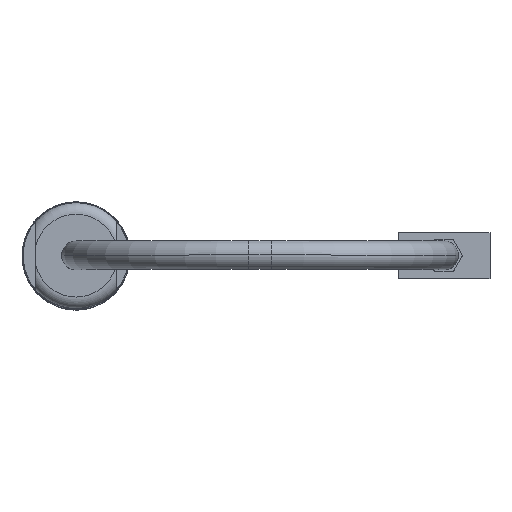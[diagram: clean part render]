
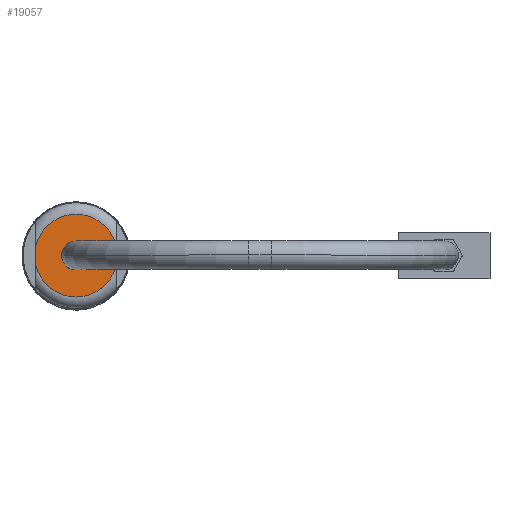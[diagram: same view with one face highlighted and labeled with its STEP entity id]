
A CAD part, top view. The second image highlights one B-rep face of the part: STEP entity #19057.
In plain terms, the highlighted planar face has unit normal (0, 0, 1) as drawn and (1, 0, 0) by its records, which use the part's own axes.
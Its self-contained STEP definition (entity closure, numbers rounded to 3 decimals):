
#17188=DIRECTION('',(0.,0.,-1.));
#17189=VECTOR('',#17188,1.685);
#17190=CARTESIAN_POINT('',(37.26,3.5,0.843));
#17191=LINE('',#17190,#17189);
#17195=DIRECTION('',(0.,0.,-1.));
#17196=VECTOR('',#17195,1.685);
#17197=CARTESIAN_POINT('',(37.26,-3.5,0.843));
#17198=LINE('',#17197,#17196);
#18715=CARTESIAN_POINT('',(37.26,0.,0.));
#18716=DIRECTION('',(1.,0.,0.));
#18717=DIRECTION('',(0.,0.972,0.234));
#18718=AXIS2_PLACEMENT_3D('',#18715,#18716,#18717);
#18743=CARTESIAN_POINT('',(37.26,3.5,0.843));
#18763=CARTESIAN_POINT('',(37.26,-3.5,-0.843));
#18783=CARTESIAN_POINT('',(37.26,0.,0.));
#18784=DIRECTION('',(1.,0.,0.));
#18785=DIRECTION('',(0.,-0.972,-0.234));
#18786=AXIS2_PLACEMENT_3D('',#18783,#18784,#18785);
#18990=VERTEX_POINT('',#18743);
#18991=VERTEX_POINT('',#18763);
#18996=CARTESIAN_POINT('',(37.26,3.5,-0.843));
#18997=VERTEX_POINT('',#18996);
#18998=CARTESIAN_POINT('',(37.26,-3.5,0.843));
#18999=VERTEX_POINT('',#18998);
#19042=CARTESIAN_POINT('',(37.26,0.,0.));
#19043=DIRECTION('',(-1.,0.,0.));
#19044=DIRECTION('',(0.,0.,-1.));
#19045=AXIS2_PLACEMENT_3D('',#19042,#19043,#19044);
#19046=PLANE('',#19045);
#19048=ORIENTED_EDGE('',*,*,#19047,.T.);
#19050=ORIENTED_EDGE('',*,*,#19049,.F.);
#19052=ORIENTED_EDGE('',*,*,#19051,.F.);
#19054=ORIENTED_EDGE('',*,*,#19053,.F.);
#19055=EDGE_LOOP('',(#19048,#19050,#19052,#19054));
#19056=FACE_OUTER_BOUND('',#19055,.F.);
#19057=ADVANCED_FACE('',(#19056),#19046,.F.);
#18719=CIRCLE('',#18718,3.6);
#18787=CIRCLE('',#18786,3.6);
#19047=EDGE_CURVE('',#18990,#18997,#17191,.T.);
#19049=EDGE_CURVE('',#18991,#18997,#18787,.T.);
#19051=EDGE_CURVE('',#18999,#18991,#17198,.T.);
#19053=EDGE_CURVE('',#18990,#18999,#18719,.T.);
